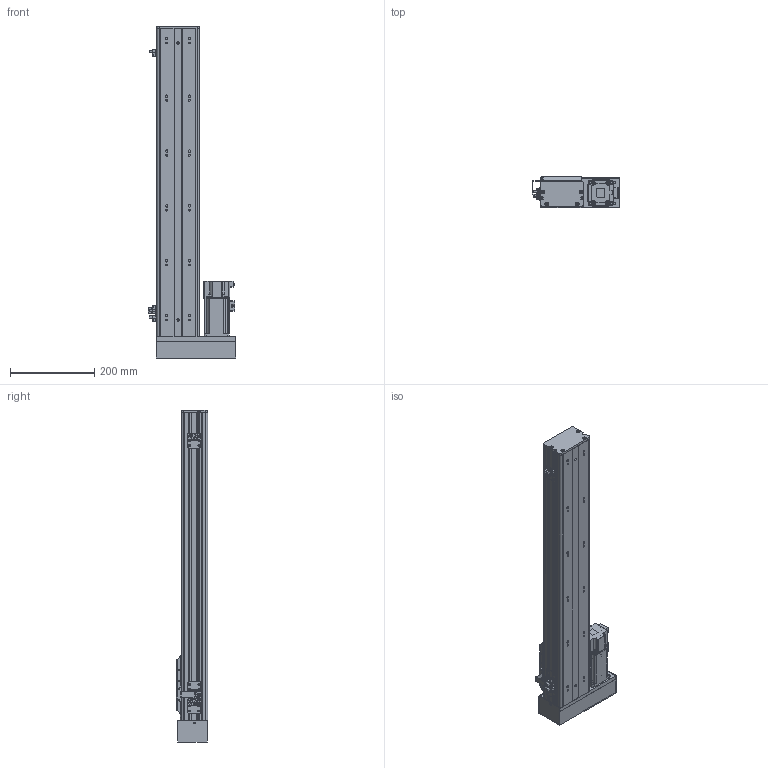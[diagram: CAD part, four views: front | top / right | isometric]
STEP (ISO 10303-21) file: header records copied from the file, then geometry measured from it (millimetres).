
FILE_DESCRIPTION (( 'STEP AP203' ), '1' );
FILE_NAME ('BOSW100-550-1610-1P-LM-M400W-O-S3（方程式2016）.step', '2020-10-10T06:56:17', ( '' ), ( '' ), 'SwSTEP 2.0', 'SolidWorks 2016', '' );
FILE_SCHEMA (( 'CONFIG_CONTROL_DESIGN' ));
Length unit declared in the file: millimetre
Products named in the file (14): BOSW&TW-100-詩湍揤沭(陔賦凳); BOSW&TW-100-1P-賑雄釱欶; BOSW&TW-100-俋离覜茼え; BOSW-100-綴裔啣; BOSW-100-1P-DM-宽轨-钢带-550客户图纸; 放大器内置U型微型光电传感器PM-L65; boS-100-LM&RM-三菱M400W马达板-宽轨; AIMS(W)-100-LM&RM-肮祭謫欶; 俋境嫖覜嘐隅啣; BOSW-100-1P-DM-550諦誧芞; BOSW100-550-1610-1P-LM-M400W-O-S3（方程式2016）; BOSW-100-1P-DM-宽轨-侧板-550客户图纸; S400W(SMA-L040); 新结构AIMSW-100-1P-宽&高轨共用-滑动座上组件
Assembly tree (19 placements, depth 2):
  BOSW100-550-1610-1P-LM-M400W-O-S3（方程式2016）
    BOSW-100-1P-DM-550諦誧芞
    BOSW-100-綴裔啣
    新结构AIMSW-100-1P-宽&高轨共用-滑动座上组件
    S400W(SMA-L040)
    BOSW&TW-100-詩湍揤沭(陔賦凳)  x2
    BOSW&TW-100-1P-賑雄釱欶
    BOSW&TW-100-俋离覜茼え
    俋境嫖覜嘐隅啣  x3
    放大器内置U型微型光电传感器PM-L65  x3
    BOSW-100-1P-DM-宽轨-侧板-550客户图纸  x2
    BOSW-100-1P-DM-宽轨-钢带-550客户图纸
    AIMS(W)-100-LM&RM-肮祭謫欶
    boS-100-LM&RM-三菱M400W马达板-宽轨
Bounding box: 207.9 x 75 x 786 mm (x, y, z)
Volume: 1821996.5 mm3; surface area: 867436.3 mm2
Topology: 19 solids, 20 shells, 2521 faces, 6651 edges, 4243 vertices
Faces by surface type: plane 1241, cylinder 794, bspline 271, cone 167, torus 36, sphere 12
Entity records: 69100 total; most frequent: CARTESIAN_POINT 20740, ORIENTED_EDGE 9842, DIRECTION 9525, EDGE_CURVE 4921, AXIS2_PLACEMENT_3D 3373, VERTEX_POINT 3145, LINE 2779, VECTOR 2779
